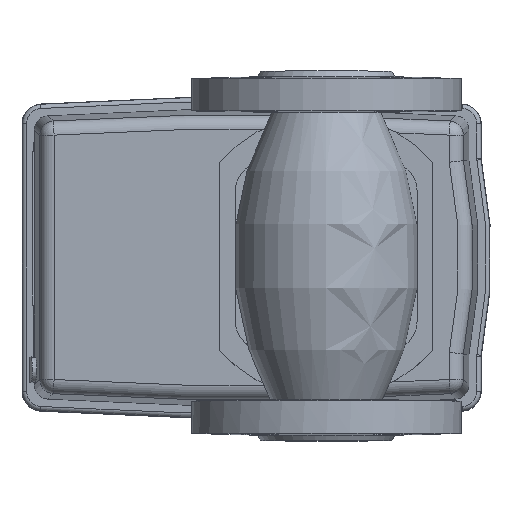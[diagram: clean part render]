
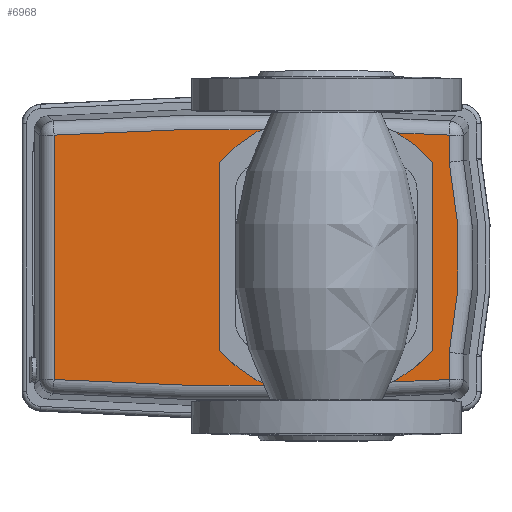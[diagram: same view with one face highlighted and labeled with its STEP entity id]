
A CAD part, top view. The second image highlights one B-rep face of the part: STEP entity #6968.
In plain terms, the highlighted planar face has unit normal (0, 0, 1).
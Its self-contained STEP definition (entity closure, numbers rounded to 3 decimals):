
#358=CIRCLE('',#7452,25.358);
#359=CIRCLE('',#7454,1090.687);
#360=CIRCLE('',#7455,163.687);
#361=CIRCLE('',#7456,1090.687);
#715=LINE('',#10234,#1040);
#716=LINE('',#10238,#1041);
#717=LINE('',#10242,#1042);
#1040=VECTOR('',#8631,1000.);
#1041=VECTOR('',#8634,1000.);
#1042=VECTOR('',#8637,1000.);
#1970=ORIENTED_EDGE('',*,*,#2958,.F.);
#1971=ORIENTED_EDGE('',*,*,#2959,.T.);
#1972=ORIENTED_EDGE('',*,*,#2960,.F.);
#1973=ORIENTED_EDGE('',*,*,#2961,.T.);
#1974=ORIENTED_EDGE('',*,*,#2962,.F.);
#1975=ORIENTED_EDGE('',*,*,#2963,.T.);
#1976=ORIENTED_EDGE('',*,*,#2957,.T.);
#2957=EDGE_CURVE('',#3500,#3500,#358,.T.);
#2958=EDGE_CURVE('',#3501,#3502,#359,.T.);
#2959=EDGE_CURVE('',#3501,#3503,#715,.T.);
#2960=EDGE_CURVE('',#3504,#3503,#360,.T.);
#2961=EDGE_CURVE('',#3504,#3505,#716,.T.);
#2962=EDGE_CURVE('',#3506,#3505,#361,.T.);
#2963=EDGE_CURVE('',#3506,#3502,#717,.T.);
#3500=VERTEX_POINT('',#10229);
#3501=VERTEX_POINT('',#10232);
#3502=VERTEX_POINT('',#10233);
#3503=VERTEX_POINT('',#10235);
#3504=VERTEX_POINT('',#10237);
#3505=VERTEX_POINT('',#10239);
#3506=VERTEX_POINT('',#10241);
#3927=EDGE_LOOP('',(#1970,#1971,#1972,#1973,#1974,#1975));
#3928=EDGE_LOOP('',(#1976));
#4322=FACE_BOUND('',#3927,.T.);
#4323=FACE_BOUND('',#3928,.T.);
#4637=PLANE('',#7453);
#6968=ADVANCED_FACE('',(#4322,#4323),#4637,.F.);
#7452=AXIS2_PLACEMENT_3D('',#10228,#8625,#8626);
#7453=AXIS2_PLACEMENT_3D('',#10230,#8627,#8628);
#7454=AXIS2_PLACEMENT_3D('',#10231,#8629,#8630);
#7455=AXIS2_PLACEMENT_3D('',#10236,#8632,#8633);
#7456=AXIS2_PLACEMENT_3D('',#10240,#8635,#8636);
#8625=DIRECTION('',(0.,0.,-1.));
#8626=DIRECTION('',(-1.,0.,0.));
#8627=DIRECTION('',(0.,0.,-1.));
#8628=DIRECTION('',(-1.,0.,0.));
#8629=DIRECTION('',(0.,0.,-1.));
#8630=DIRECTION('',(-1.,0.,0.));
#8631=DIRECTION('',(0.,1.,0.));
#8632=DIRECTION('',(0.,0.,-1.));
#8633=DIRECTION('',(-1.,0.,0.));
#8634=DIRECTION('',(0.,1.,0.));
#8635=DIRECTION('',(0.,0.,-1.));
#8636=DIRECTION('',(-1.,0.,0.));
#8637=DIRECTION('',(0.,-1.,0.));
#10228=CARTESIAN_POINT('',(0.,0.,-74.));
#10229=CARTESIAN_POINT('',(-25.358,0.,-74.));
#10230=CARTESIAN_POINT('',(-26.246,1045.513,-74.));
#10231=CARTESIAN_POINT('',(-26.246,1045.513,-74.));
#10232=CARTESIAN_POINT('',(43.195,-42.961,-74.));
#10233=CARTESIAN_POINT('',(-95.687,-42.961,-74.));
#10234=CARTESIAN_POINT('',(43.195,1045.513,-74.));
#10235=CARTESIAN_POINT('',(43.195,-33.454,-74.));
#10236=CARTESIAN_POINT('',(-117.037,0.,-74.));
#10237=CARTESIAN_POINT('',(43.195,33.454,-74.));
#10238=CARTESIAN_POINT('',(43.195,1045.513,-74.));
#10239=CARTESIAN_POINT('',(43.195,42.961,-74.));
#10240=CARTESIAN_POINT('',(-26.246,-1045.513,-74.));
#10241=CARTESIAN_POINT('',(-95.687,42.961,-74.));
#10242=CARTESIAN_POINT('',(-95.687,1045.513,-74.));
